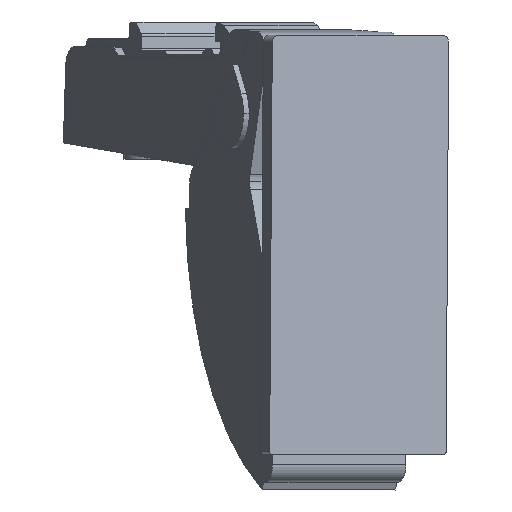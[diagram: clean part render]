
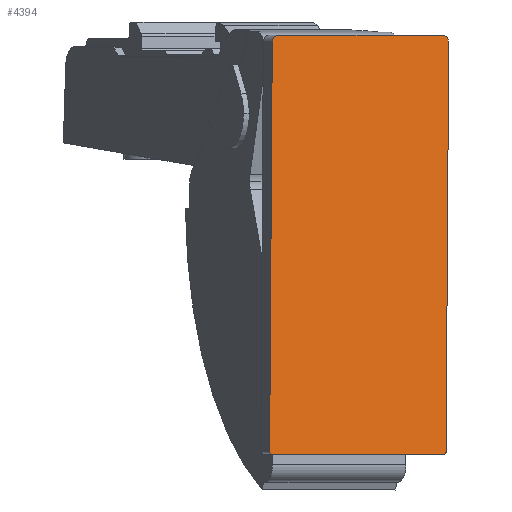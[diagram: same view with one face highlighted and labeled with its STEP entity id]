
A CAD part, front view. The second image highlights one B-rep face of the part: STEP entity #4394.
In plain terms, the highlighted planar face has unit normal (0.424, -0.905, -0.015).
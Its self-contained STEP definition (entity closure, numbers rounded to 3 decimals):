
#125 = AXIS2_PLACEMENT_3D ( 'NONE', #2906, #2800, #2786 ) ;
#128 = AXIS2_PLACEMENT_3D ( 'NONE', #2840, #2839, #2838 ) ;
#130 = AXIS2_PLACEMENT_3D ( 'NONE', #2942, #2936, #2932 ) ;
#174 = AXIS2_PLACEMENT_3D ( 'NONE', #2551, #2540, #2538 ) ;
#241 = AXIS2_PLACEMENT_3D ( 'NONE', #6073, #6072, #6071 ) ;
#340 = CIRCLE ( 'NONE', #128, 1. ) ;
#410 = CIRCLE ( 'NONE', #125, 0.4 ) ;
#625 = FACE_OUTER_BOUND ( 'NONE', #3604, .T. ) ;
#1121 = EDGE_CURVE ( 'NONE', #2162, #2046, #1457, .T. ) ;
#1124 = EDGE_CURVE ( 'NONE', #2154, #2302, #1454, .T. ) ;
#1126 = EDGE_CURVE ( 'NONE', #2337, #2046, #1448, .T. ) ;
#1128 = EDGE_CURVE ( 'NONE', #2068, #2162, #1444, .T. ) ;
#1160 = EDGE_CURVE ( 'NONE', #2322, #2320, #1403, .T. ) ;
#1204 = EDGE_CURVE ( 'NONE', #2337, #2302, #1335, .T. ) ;
#1211 = EDGE_CURVE ( 'NONE', #2322, #2068, #340, .T. ) ;
#1213 = EDGE_CURVE ( 'NONE', #2154, #2320, #410, .T. ) ;
#1335 = CIRCLE ( 'NONE', #130, 0.4 ) ;
#1400 = VECTOR ( 'NONE', #5717, 1000. ) ;
#1403 = LINE ( 'NONE', #5721, #1400 ) ;
#1441 = VECTOR ( 'NONE', #6052, 1000. ) ;
#1444 = LINE ( 'NONE', #6054, #1441 ) ;
#1445 = VECTOR ( 'NONE', #6058, 1000. ) ;
#1448 = LINE ( 'NONE', #6060, #1445 ) ;
#1449 = VECTOR ( 'NONE', #6066, 1000. ) ;
#1454 = LINE ( 'NONE', #6076, #1449 ) ;
#1457 = CIRCLE ( 'NONE', #241, 1. ) ;
#2046 = VERTEX_POINT ( 'NONE', #3008 ) ;
#2068 = VERTEX_POINT ( 'NONE', #2982 ) ;
#2154 = VERTEX_POINT ( 'NONE', #2881 ) ;
#2162 = VERTEX_POINT ( 'NONE', #2871 ) ;
#2302 = VERTEX_POINT ( 'NONE', #2712 ) ;
#2320 = VERTEX_POINT ( 'NONE', #2687 ) ;
#2322 = VERTEX_POINT ( 'NONE', #2684 ) ;
#2337 = VERTEX_POINT ( 'NONE', #2667 ) ;
#2403 = ORIENTED_EDGE ( 'NONE', *, *, #1211, .T. ) ;
#2404 = ORIENTED_EDGE ( 'NONE', *, *, #1128, .T. ) ;
#2405 = ORIENTED_EDGE ( 'NONE', *, *, #1121, .T. ) ;
#2406 = ORIENTED_EDGE ( 'NONE', *, *, #1126, .F. ) ;
#2407 = ORIENTED_EDGE ( 'NONE', *, *, #1204, .T. ) ;
#2408 = ORIENTED_EDGE ( 'NONE', *, *, #1124, .F. ) ;
#2409 = ORIENTED_EDGE ( 'NONE', *, *, #1213, .T. ) ;
#2410 = ORIENTED_EDGE ( 'NONE', *, *, #1160, .F. ) ;
#2538 = DIRECTION ( 'NONE',  ( -0.905, -0.424, 0. ) ) ;
#2540 = DIRECTION ( 'NONE',  ( 0.424, -0.905, -0.015 ) ) ;
#2543 = PLANE ( 'NONE',  #174 ) ;
#2551 = CARTESIAN_POINT ( 'NONE',  ( 40.91, -56.164, 17.747 ) ) ;
#2667 = CARTESIAN_POINT ( 'NONE',  ( 15.357, -67.15, -41.647 ) ) ;
#2684 = CARTESIAN_POINT ( 'NONE',  ( 40.903, -56.151, 16.747 ) ) ;
#2687 = CARTESIAN_POINT ( 'NONE',  ( 40.53, -55.353, -41.647 ) ) ;
#2712 = CARTESIAN_POINT ( 'NONE',  ( 15.717, -66.975, -42.047 ) ) ;
#2786 = DIRECTION ( 'NONE',  ( 0.905, 0.424, 0. ) ) ;
#2800 = DIRECTION ( 'NONE',  ( 0.424, -0.905, -0.015 ) ) ;
#2838 = DIRECTION ( 'NONE',  ( -0.905, -0.424, 0. ) ) ;
#2839 = DIRECTION ( 'NONE',  ( 0.424, -0.905, -0.015 ) ) ;
#2840 = CARTESIAN_POINT ( 'NONE',  ( 39.998, -56.575, 16.747 ) ) ;
#2871 = CARTESIAN_POINT ( 'NONE',  ( 16.643, -67.538, 17.747 ) ) ;
#2881 = CARTESIAN_POINT ( 'NONE',  ( 40.165, -55.517, -42.047 ) ) ;
#2906 = CARTESIAN_POINT ( 'NONE',  ( 40.167, -55.523, -41.647 ) ) ;
#2932 = DIRECTION ( 'NONE',  ( -0.905, -0.424, 0. ) ) ;
#2936 = DIRECTION ( 'NONE',  ( 0.424, -0.905, -0.015 ) ) ;
#2942 = CARTESIAN_POINT ( 'NONE',  ( 15.719, -66.981, -41.647 ) ) ;
#2982 = CARTESIAN_POINT ( 'NONE',  ( 40.004, -56.589, 17.747 ) ) ;
#3008 = CARTESIAN_POINT ( 'NONE',  ( 15.731, -67.948, 16.747 ) ) ;
#3604 = EDGE_LOOP ( 'NONE', ( #2403, #2404, #2405, #2406, #2407, #2408, #2409, #2410 ) ) ;
#4394 = ADVANCED_FACE ( 'NONE', ( #625 ), #2543, .T. ) ;
#5717 = DIRECTION ( 'NONE',  ( -0.006, 0.014, -1. ) ) ;
#5721 = CARTESIAN_POINT ( 'NONE',  ( 40.717, -55.752, -12.45 ) ) ;
#6052 = DIRECTION ( 'NONE',  ( -0.905, -0.424, 0. ) ) ;
#6054 = CARTESIAN_POINT ( 'NONE',  ( 28.324, -62.063, 17.747 ) ) ;
#6058 = DIRECTION ( 'NONE',  ( 0.006, -0.014, 1. ) ) ;
#6060 = CARTESIAN_POINT ( 'NONE',  ( 15.544, -67.549, -12.45 ) ) ;
#6066 = DIRECTION ( 'NONE',  ( -0.905, -0.424, 0. ) ) ;
#6071 = DIRECTION ( 'NONE',  ( 0.905, 0.424, 0. ) ) ;
#6072 = DIRECTION ( 'NONE',  ( 0.424, -0.905, -0.015 ) ) ;
#6073 = CARTESIAN_POINT ( 'NONE',  ( 16.636, -67.524, 16.747 ) ) ;
#6076 = CARTESIAN_POINT ( 'NONE',  ( 27.941, -61.246, -42.047 ) ) ;
